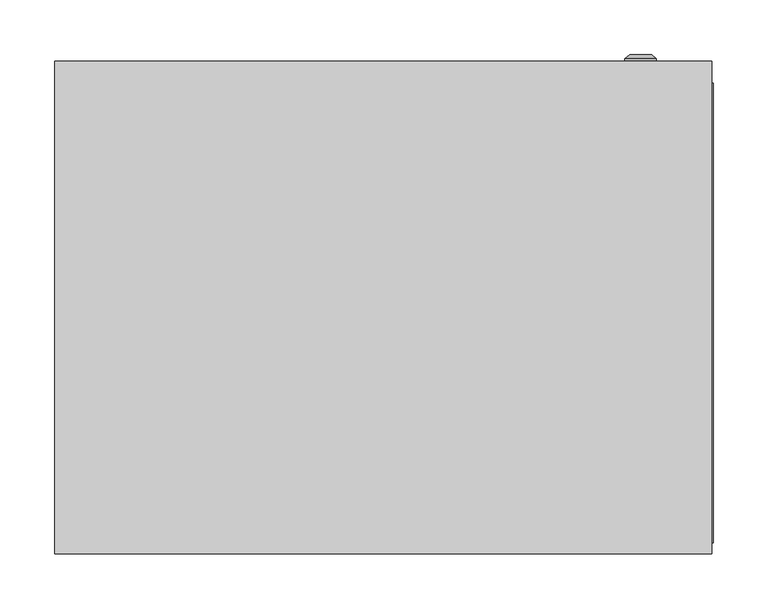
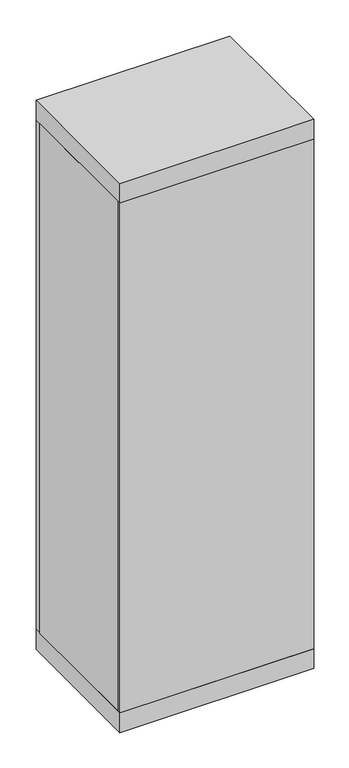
"""IFC4 building model written with IfcOpenShell, lengths in millimetres: proxy geometry, ВРУ-1_IP54 : ВРУ-1_1800х600х450."""

from ifc_helpers import new_model, si_unit, frame, origin, origin_with_axes, place, context, project, spatial, polyline, circle_curve, outline, extrude, source, transform, mapped, element, save
from ifc_brep_helpers import plane_surface, cylinder_surface, revolved_surface, advanced_brep


def electrical_equipment_fd75258f(model_context):
    return source(origin(), model_context, "Body", "SolidModel", [
        extrude(outline(polyline([(300.0, 0.0), (-300.0, 0.0), (-300.0, 10.0), (300.0, 10.0), (300.0, 0.0)])), frame((0.0, 0.0, 65.0187804), z_axis=(0.0, 0.0, 1.0), x_axis=(1.0, 0.0, 0.0)), (0.0, 0.0, 1.0), 1669.9812196),
        extrude(outline(polyline([(-255.8707865, 125.9831461), (-215.8707865, 125.9831461), (-215.8707865, 93.1179775), (-218.8707865, 93.1179775), (-218.8707865, 122.9831461), (-252.8707865, 122.9831461), (-252.8707865, 93.1179775), (-255.8707865, 93.1179775), (-255.8707865, 125.9831461)])), frame((0.0, 0.0, 189.6067416), z_axis=(0.0, 0.0, 1.0), x_axis=(1.0, 0.0, 0.0)), (0.0, 0.0, 1.0), 1545.3932584),
        extrude(outline(polyline([(215.8707865, 125.9831461), (255.8707865, 125.9831461), (255.8707865, 93.1179775), (252.8707865, 93.1179775), (252.8707865, 122.9831461), (218.8707865, 122.9831461), (218.8707865, 93.1179775), (215.8707865, 93.1179775), (215.8707865, 125.9831461)])), frame((0.0, 0.0, 189.6067416), z_axis=(0.0, 0.0, 1.0), x_axis=(1.0, 0.0, 0.0)), (0.0, 0.0, 1.0), 1545.3932584),
        extrude(outline(polyline([(-255.8707865, 10.0), (-265.8707865, 10.0), (-265.8707865, 430.0), (-255.8707865, 430.0), (-255.8707865, 10.0)])), frame((0.0, 0.0, 1645.5966059), z_axis=(0.0, 0.0, 1.0), x_axis=(1.0, 0.0, 0.0)), (0.0, 0.0, 1.0), 53.0898876),
        extrude(outline(polyline([(265.8707865, 10.0), (255.8707865, 10.0), (255.8707865, 430.0), (265.8707865, 430.0), (265.8707865, 10.0)])), frame((0.0, 0.0, 1645.5966059), z_axis=(0.0, 0.0, 1.0), x_axis=(1.0, 0.0, 0.0)), (0.0, 0.0, 1.0), 53.0898876),
        extrude(outline(polyline([(-255.8707865, 10.0), (-265.8707865, 10.0), (-265.8707865, 430.0), (-255.8707865, 430.0), (-255.8707865, 10.0)])), frame((0.0, 0.0, 255.5966059), z_axis=(0.0, 0.0, 1.0), x_axis=(1.0, 0.0, 0.0)), (0.0, 0.0, 1.0), 53.0898876),
        extrude(outline(polyline([(265.8707865, 10.0), (255.8707865, 10.0), (255.8707865, 430.0), (265.8707865, 430.0), (265.8707865, 10.0)])), frame((0.0, 0.0, 255.5966059), z_axis=(0.0, 0.0, 1.0), x_axis=(1.0, 0.0, 0.0)), (0.0, 0.0, 1.0), 53.0898876),
        extrude(outline(polyline([(-255.8707865, 10.0), (-265.8707865, 10.0), (-265.8707865, 430.0), (-255.8707865, 430.0), (-255.8707865, 10.0)])), frame((0.0, 0.0, 835.5966059), z_axis=(0.0, 0.0, 1.0), x_axis=(1.0, 0.0, 0.0)), (0.0, 0.0, 1.0), 53.0898876),
        extrude(outline(polyline([(265.8707865, 10.0), (255.8707865, 10.0), (255.8707865, 430.0), (265.8707865, 430.0), (265.8707865, 10.0)])), frame((0.0, 0.0, 835.5966059), z_axis=(0.0, 0.0, 1.0), x_axis=(1.0, 0.0, 0.0)), (0.0, 0.0, 1.0), 53.0898876),
        extrude(outline(polyline([(1735.0, -300.0), (65.0187804, -300.0), (65.0187804, 301.2640449), (1735.0, 301.2640449), (1735.0, -300.0)]), holes=[polyline([(93.3701084, 265.8707865), (93.3701084, -263.3426966), (1692.9861595, -263.3426966), (1692.9861595, 265.8707865), (93.3701084, 265.8707865)])]), frame((0.0, 10.0, 0.0), z_axis=(0.0, 1.0, 0.0), x_axis=(0.0, 0.0, 1.0)), (0.0, 0.0, 1.0), 420.0),
        extrude(outline(polyline([(300.0067809, 450.0), (300.0067809, 0.0), (-300.0, 0.0), (-300.0, 450.0), (300.0067809, 450.0)])), frame((0.0, 0.0, 1735.0), z_axis=(0.0, 0.0, 1.0), x_axis=(1.0, 0.0, 0.0)), (0.0, 0.0, 1.0), 65.0),
        advanced_brep(
        [(220.669873, 450.0, 415.0), (249.330127, 450.0, 415.0), (235.0, 450.0, 415.0), (220.669873, 452.366592, 415.0), (249.330127, 452.366592, 415.0), (225.0, 456.0, 415.0), (245.0, 456.0, 415.0), (233.1080471, 456.0, 415.0), (236.8919529, 456.0, 415.0), (233.1080471, 454.9822294, 415.0), (236.8919529, 454.9822294, 415.0), (235.0, 454.9822294, 415.0)],
        [
            (0, 1, circle_curve(frame((235.0, 450.0, 415.0), z_axis=(0.0, -1.0, 0.0), x_axis=(1.0, 0.0, 0.0)), 14.330127)),
            (1, 2),
            (2, 0),
            (1, 0, circle_curve(frame((235.0, 450.0, 415.0), z_axis=(0.0, -1.0, 0.0), x_axis=(1.0, 0.0, 0.0)), 14.330127)),
            (3, 4, circle_curve(frame((235.0, 452.366592, 415.0), z_axis=(0.0, -1.0, 0.0), x_axis=(1.0, 0.0, 0.0)), 14.330127)),
            (4, 1),
            (0, 3),
            (4, 3, circle_curve(frame((235.0, 452.366592, 415.0), z_axis=(0.0, -1.0, 0.0), x_axis=(1.0, 0.0, 0.0)), 14.330127)),
            (5, 6, circle_curve(frame((235.0, 456.0, 415.0), z_axis=(0.0, -1.0, 0.0), x_axis=(1.0, 0.0, 0.0)), 10.0)),
            (6, 4),
            (3, 5),
            (6, 5, circle_curve(frame((235.0, 456.0, 415.0), z_axis=(0.0, -1.0, 0.0), x_axis=(1.0, 0.0, 0.0)), 10.0)),
            (7, 8, circle_curve(frame((235.0, 456.0, 415.0), z_axis=(0.0, -1.0, 0.0), x_axis=(1.0, 0.0, 0.0)), 1.8919529)),
            (8, 6),
            (5, 7),
            (8, 7, circle_curve(frame((235.0, 456.0, 415.0), z_axis=(0.0, -1.0, 0.0), x_axis=(1.0, 0.0, 0.0)), 1.8919529)),
            (9, 10, circle_curve(frame((235.0, 454.9822294, 415.0), z_axis=(0.0, -1.0, 0.0), x_axis=(1.0, 0.0, 0.0)), 1.8919529)),
            (10, 8),
            (7, 9),
            (10, 9, circle_curve(frame((235.0, 454.9822294, 415.0), z_axis=(0.0, -1.0, 0.0), x_axis=(1.0, 0.0, 0.0)), 1.8919529)),
            (11, 10),
            (9, 11),
        ],
        [
            plane_surface(frame((235.0, 450.0, 415.0), z_axis=(0.0, -1.0, 0.0), x_axis=(1.0, 0.0, 0.0))),
            cylinder_surface(frame((235.0, 463.1348851, 415.0), z_axis=(0.0, 1.0, 0.0), x_axis=(1.0, 0.0, 0.0)), 14.330127),
            revolved_surface(polyline([(249.330127, 452.366592, 415.0), (245.0, 456.0, 415.0)]), (235.0, 463.1348851, 415.0), (0.0, 1.0, 0.0)),
            plane_surface(frame((235.0, 456.0, 415.0), z_axis=(0.0, 1.0, 0.0), x_axis=(1.0, 0.0, 0.0))),
            revolved_surface(polyline([(236.8919529, 456.0, 415.0), (236.8919529, 454.9822294, 415.0)]), (235.0, 463.1348851, 415.0), (0.0, 1.0, 0.0)),
            plane_surface(frame((235.0, 454.9822294, 415.0), z_axis=(0.0, 1.0, 0.0), x_axis=(1.0, 0.0, 0.0))),
        ],
        [
            (0, [[1, 2, 3]]),
            (0, [[4, -3, -2]]),
            (1, [[5, 6, -1, 7]]),
            (1, [[8, -7, -4, -6]]),
            (2, [[9, 10, -5, 11]]),
            (2, [[12, -11, -8, -10]]),
            (3, [[13, 14, -9, 15]]),
            (3, [[16, -15, -12, -14]]),
            (4, [[17, 18, -13, 19]]),
            (4, [[20, -19, -16, -18]]),
            (5, [[21, -17, 22]]),
            (5, [[-22, -20, -21]]),
        ],
    ),
        advanced_brep(
        [(220.669873, 450.0, 1385.0), (249.330127, 450.0, 1385.0), (235.0, 450.0, 1385.0), (220.669873, 452.366592, 1385.0), (249.330127, 452.366592, 1385.0), (225.0, 456.0, 1385.0), (245.0, 456.0, 1385.0), (233.1080471, 456.0, 1385.0), (236.8919529, 456.0, 1385.0), (233.1080471, 454.9822294, 1385.0), (236.8919529, 454.9822294, 1385.0), (235.0, 454.9822294, 1385.0)],
        [
            (0, 1, circle_curve(frame((235.0, 450.0, 1385.0), z_axis=(0.0, -1.0, 0.0), x_axis=(1.0, 0.0, 0.0)), 14.330127)),
            (1, 2),
            (2, 0),
            (1, 0, circle_curve(frame((235.0, 450.0, 1385.0), z_axis=(0.0, -1.0, 0.0), x_axis=(1.0, 0.0, 0.0)), 14.330127)),
            (3, 4, circle_curve(frame((235.0, 452.366592, 1385.0), z_axis=(0.0, -1.0, 0.0), x_axis=(1.0, 0.0, 0.0)), 14.330127)),
            (4, 1),
            (0, 3),
            (4, 3, circle_curve(frame((235.0, 452.366592, 1385.0), z_axis=(0.0, -1.0, 0.0), x_axis=(1.0, 0.0, 0.0)), 14.330127)),
            (5, 6, circle_curve(frame((235.0, 456.0, 1385.0), z_axis=(0.0, -1.0, 0.0), x_axis=(1.0, 0.0, 0.0)), 10.0)),
            (6, 4),
            (3, 5),
            (6, 5, circle_curve(frame((235.0, 456.0, 1385.0), z_axis=(0.0, -1.0, 0.0), x_axis=(1.0, 0.0, 0.0)), 10.0)),
            (7, 8, circle_curve(frame((235.0, 456.0, 1385.0), z_axis=(0.0, -1.0, 0.0), x_axis=(1.0, 0.0, 0.0)), 1.8919529)),
            (8, 6),
            (5, 7),
            (8, 7, circle_curve(frame((235.0, 456.0, 1385.0), z_axis=(0.0, -1.0, 0.0), x_axis=(1.0, 0.0, 0.0)), 1.8919529)),
            (9, 10, circle_curve(frame((235.0, 454.9822294, 1385.0), z_axis=(0.0, -1.0, 0.0), x_axis=(1.0, 0.0, 0.0)), 1.8919529)),
            (10, 8),
            (7, 9),
            (10, 9, circle_curve(frame((235.0, 454.9822294, 1385.0), z_axis=(0.0, -1.0, 0.0), x_axis=(1.0, 0.0, 0.0)), 1.8919529)),
            (11, 10),
            (9, 11),
        ],
        [
            plane_surface(frame((235.0, 450.0, 1385.0), z_axis=(0.0, -1.0, 0.0), x_axis=(1.0, 0.0, 0.0))),
            cylinder_surface(frame((235.0, 463.1348851, 1385.0), z_axis=(0.0, 1.0, 0.0), x_axis=(1.0, 0.0, 0.0)), 14.330127),
            revolved_surface(polyline([(249.330127, 452.366592, 1385.0), (245.0, 456.0, 1385.0)]), (235.0, 463.1348851, 1385.0), (0.0, 1.0, 0.0)),
            plane_surface(frame((235.0, 456.0, 1385.0), z_axis=(0.0, 1.0, 0.0), x_axis=(1.0, 0.0, 0.0))),
            revolved_surface(polyline([(236.8919529, 456.0, 1385.0), (236.8919529, 454.9822294, 1385.0)]), (235.0, 463.1348851, 1385.0), (0.0, 1.0, 0.0)),
            plane_surface(frame((235.0, 454.9822294, 1385.0), z_axis=(0.0, 1.0, 0.0), x_axis=(1.0, 0.0, 0.0))),
        ],
        [
            (0, [[1, 2, 3]]),
            (0, [[4, -3, -2]]),
            (1, [[5, 6, -1, 7]]),
            (1, [[8, -7, -4, -6]]),
            (2, [[9, 10, -5, 11]]),
            (2, [[12, -11, -8, -10]]),
            (3, [[13, 14, -9, 15]]),
            (3, [[16, -15, -12, -14]]),
            (4, [[17, 18, -13, 19]]),
            (4, [[20, -19, -16, -18]]),
            (5, [[21, -17, 22]]),
            (5, [[-22, -20, -21]]),
        ],
    ),
        extrude(outline(polyline([(300.0067809, 450.0), (300.0067809, 0.0), (-300.0, 0.0), (-300.0, 450.0), (300.0067809, 450.0)])), origin_with_axes(), (0.0, 0.0, 1.0), 65.0187804),
        extrude(outline(polyline([(300.0, 430.0), (-300.0, 430.0), (-300.0, 450.0), (300.0, 450.0), (300.0, 430.0)])), frame((0.0, 0.0, 65.0187804), z_axis=(0.0, 0.0, 1.0), x_axis=(1.0, 0.0, 0.0)), (0.0, 0.0, 1.0), 1669.9812196),
    ])


if __name__ == "__main__":
    model = new_model("IFC4")
    model_context = context("Model", 3, world=origin())
    ifc_project = project(units=[si_unit("LENGTHUNIT", "METRE", prefix="MILLI")], contexts=[model_context])
    site = spatial("IfcSite", under=ifc_project)
    building = spatial("IfcBuilding", under=site)
    placement = place(None, origin())
    electrical_equipment_shape = electrical_equipment_fd75258f(model_context)
    element("IfcBuildingElementProxy", 1, Name="ВРУ-1_IP54 : ВРУ-1_1800х600х450", ObjectType="ВРУ-1_IP54 : ВРУ-1_1800х600х450", at=placement, inside=building, context=model_context, shape_type="MappedRepresentation", body=[
        mapped(electrical_equipment_shape, transform((0.0, 0.0, 0.0), x_axis=(1.0, 0.0, 0.0), y_axis=(0.0, 1.0, 0.0), z_axis=(0.0, 0.0, 1.0))),
    ])
    save(model, "model.ifc")
